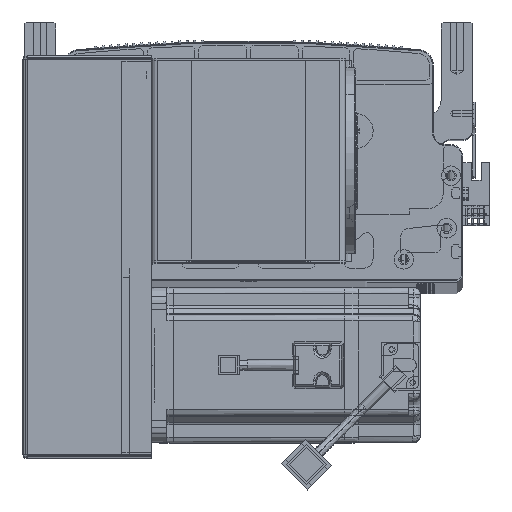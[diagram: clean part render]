
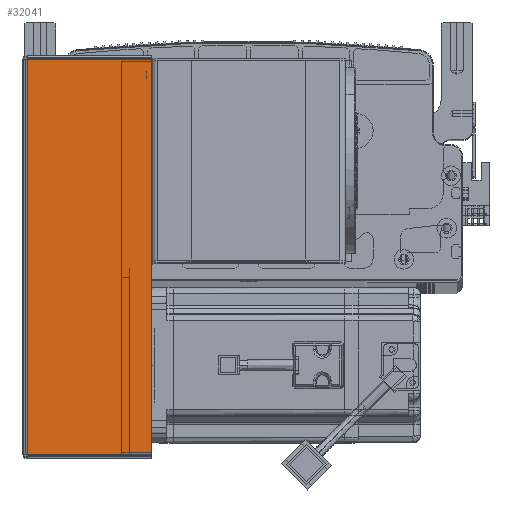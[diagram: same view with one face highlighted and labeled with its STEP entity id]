
A CAD part, top view. The second image highlights one B-rep face of the part: STEP entity #32041.
In plain terms, the highlighted planar face has unit normal (0, 0, 1) as drawn and (0, -1, 0) by its records, which use the part's own axes.
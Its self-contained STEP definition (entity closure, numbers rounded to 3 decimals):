
#3702 = EDGE_CURVE ( 'NONE', #30403, #30039, #80419, .T. ) ;
#7489 = LINE ( 'NONE', #43522, #30653 ) ;
#15367 = DIRECTION ( 'NONE',  ( -1., 0., 0. ) ) ;
#15497 = EDGE_LOOP ( 'NONE', ( #81371, #16061, #59968, #96504 ) ) ;
#16061 = ORIENTED_EDGE ( 'NONE', *, *, #3702, .T. ) ;
#19859 = DIRECTION ( 'NONE',  ( 0., 0., 1. ) ) ;
#19893 = DIRECTION ( 'NONE',  ( 1., 0., 0. ) ) ;
#26759 = CARTESIAN_POINT ( 'NONE',  ( 0.737, -1.5, -203.293 ) ) ;
#27515 = DIRECTION ( 'NONE',  ( 0., 0., 1. ) ) ;
#30039 = VERTEX_POINT ( 'NONE', #90979 ) ;
#30403 = VERTEX_POINT ( 'NONE', #26759 ) ;
#30653 = VECTOR ( 'NONE', #89000, 1000. ) ;
#32041 = ADVANCED_FACE ( 'NONE', ( #61131 ), #46337, .F. ) ;
#37839 = CARTESIAN_POINT ( 'NONE',  ( 64.5, -1.5, -0.707 ) ) ;
#43522 = CARTESIAN_POINT ( 'NONE',  ( 0., -1.5, -0.707 ) ) ;
#44137 = CARTESIAN_POINT ( 'NONE',  ( 0.737, -1.5, -0.707 ) ) ;
#45642 = CARTESIAN_POINT ( 'NONE',  ( 0., -1.5, 0. ) ) ;
#45997 = DIRECTION ( 'NONE',  ( 0., 1., 0. ) ) ;
#46337 = PLANE ( 'NONE',  #81255 ) ;
#48511 = VECTOR ( 'NONE', #19859, 1000. ) ;
#51172 = CARTESIAN_POINT ( 'NONE',  ( 0.737, -1.5, 0. ) ) ;
#51626 = EDGE_CURVE ( 'NONE', #30039, #73016, #59812, .T. ) ;
#57529 = VECTOR ( 'NONE', #27515, 1000. ) ;
#59812 = LINE ( 'NONE', #66123, #57529 ) ;
#59968 = ORIENTED_EDGE ( 'NONE', *, *, #51626, .T. ) ;
#61131 = FACE_OUTER_BOUND ( 'NONE', #15497, .T. ) ;
#66123 = CARTESIAN_POINT ( 'NONE',  ( 64.5, -1.5, 0. ) ) ;
#67051 = VECTOR ( 'NONE', #19893, 1000. ) ;
#67862 = LINE ( 'NONE', #51172, #48511 ) ;
#73016 = VERTEX_POINT ( 'NONE', #37839 ) ;
#73365 = EDGE_CURVE ( 'NONE', #83893, #73016, #7489, .T. ) ;
#73496 = CARTESIAN_POINT ( 'NONE',  ( 0., -1.5, -203.293 ) ) ;
#80419 = LINE ( 'NONE', #73496, #67051 ) ;
#81255 = AXIS2_PLACEMENT_3D ( 'NONE', #45642, #45997, #15367 ) ;
#81371 = ORIENTED_EDGE ( 'NONE', *, *, #90227, .F. ) ;
#83893 = VERTEX_POINT ( 'NONE', #44137 ) ;
#89000 = DIRECTION ( 'NONE',  ( 1., 0., 0. ) ) ;
#90227 = EDGE_CURVE ( 'NONE', #30403, #83893, #67862, .T. ) ;
#90979 = CARTESIAN_POINT ( 'NONE',  ( 64.5, -1.5, -203.293 ) ) ;
#96504 = ORIENTED_EDGE ( 'NONE', *, *, #73365, .F. ) ;
